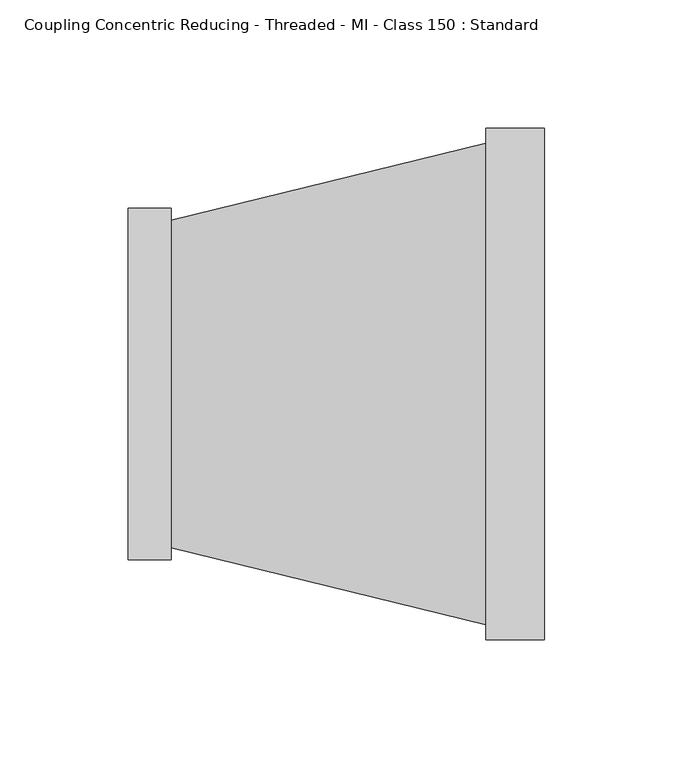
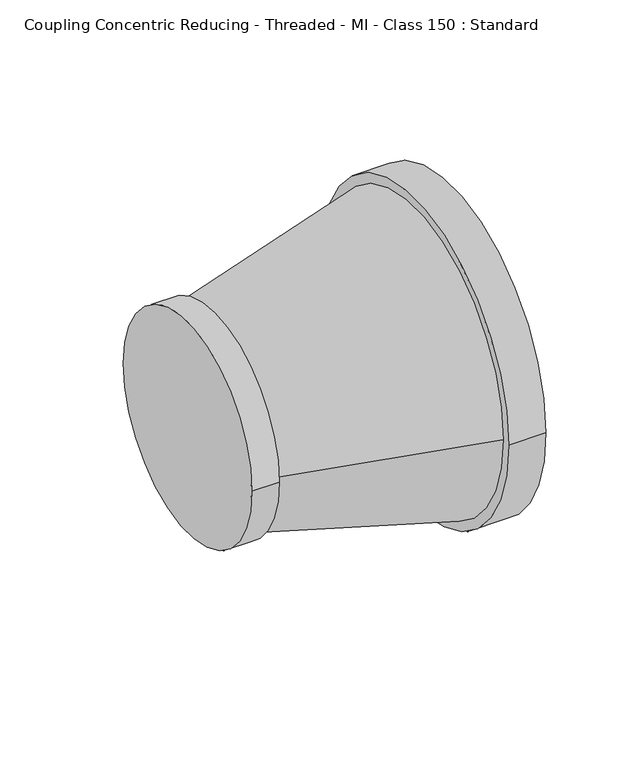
"""IFC4 building model written with IfcOpenShell, lengths in millimetres: pipe fitting geometry, Coupling Concentric Reducing - Threaded - MI - Class 150 : Standard."""

from ifc_helpers import new_model, si_unit, frame, origin, place, context, project, spatial, polyline, circle_curve, source, transform, mapped, element, save
from ifc_brep_helpers import plane_surface, cylinder_surface, revolved_surface, advanced_brep


def coupling_concentric_reducing_threaded_mi_class_150_standard_0bfa7107(model_context):
    return source(origin(), model_context, "Body", "AdvancedBrep", [
        advanced_brep(
        [(16.8, 63.93, 0.0), (139.9500313, 94.0157188, 0.0), (139.9500313, -94.0157187, 0.0), (16.8, -63.93, 0.0), (162.8020938, -99.9271719, 0.0), (162.8020938, 99.9271719, 0.0), (139.9500313, -99.9271719, 0.0), (139.9500313, 99.9271719, 0.0), (16.8, -68.6, 0.0), (16.8, 68.6, 0.0), (0.0, -68.6, 0.0), (0.0, 68.6, 0.0)],
        [
            (0, 1),
            (1, 2, circle_curve(frame((139.9500313, 0.0, 0.0), z_axis=(-1.0, 0.0, 0.0), x_axis=(0.0, -1.0, 0.0)), 94.0157188)),
            (2, 3),
            (3, 0, circle_curve(frame((16.8, 0.0, 0.0), z_axis=(1.0, 0.0, 0.0), x_axis=(0.0, -1.0, 0.0)), 63.93)),
            (0, 3, circle_curve(frame((16.8, 0.0, 0.0), z_axis=(1.0, 0.0, 0.0), x_axis=(0.0, 1.0, 0.0)), 63.93)),
            (2, 1, circle_curve(frame((139.9500313, 0.0, 0.0), z_axis=(-1.0, 0.0, 0.0), x_axis=(0.0, 1.0, 0.0)), 94.0157188)),
            (4, 5, circle_curve(frame((162.8020938, 0.0, 0.0), z_axis=(1.0, 0.0, 0.0), x_axis=(0.0, 1.0, 0.0)), 99.9271719)),
            (5, 4, circle_curve(frame((162.8020938, 0.0, 0.0), z_axis=(1.0, 0.0, 0.0), x_axis=(0.0, 1.0, 0.0)), 99.9271719)),
            (6, 7, circle_curve(frame((139.9500313, 0.0, 0.0), z_axis=(-1.0, 0.0, 0.0), x_axis=(0.0, 1.0, 0.0)), 99.9271719)),
            (7, 6, circle_curve(frame((139.9500313, 0.0, 0.0), z_axis=(-1.0, 0.0, 0.0), x_axis=(0.0, 1.0, 0.0)), 99.9271719)),
            (4, 6),
            (7, 5),
            (8, 9, circle_curve(frame((16.8, 0.0, 0.0), z_axis=(1.0, 0.0, 0.0), x_axis=(0.0, 1.0, 0.0)), 68.6)),
            (9, 8, circle_curve(frame((16.8, 0.0, 0.0), z_axis=(1.0, 0.0, 0.0), x_axis=(0.0, 1.0, 0.0)), 68.6)),
            (10, 11, circle_curve(frame((0.0, 0.0, 0.0), z_axis=(-1.0, 0.0, 0.0), x_axis=(0.0, 1.0, 0.0)), 68.6)),
            (11, 10, circle_curve(frame((0.0, 0.0, 0.0), z_axis=(-1.0, 0.0, 0.0), x_axis=(0.0, 1.0, 0.0)), 68.6)),
            (8, 10),
            (11, 9),
        ],
        [
            revolved_surface(polyline([(16.799999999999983, 63.93000002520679, 0.0), (139.9500313, 94.0157188, 0.0)]), (-244.8850062, 0.0, 0.0), (1.0, 0.0, 0.0)),
            plane_surface(frame((162.8020938, 99.9271719, 0.0), z_axis=(1.0, 0.0, 0.0), x_axis=(0.0, 0.0, 1.0))),
            plane_surface(frame((139.9500313, 99.9271719, 0.0), z_axis=(-1.0, 0.0, 0.0), x_axis=(0.0, 0.0, -1.0))),
            cylinder_surface(frame((139.9500313, 0.0, 0.0), z_axis=(1.0, 0.0, 0.0), x_axis=(0.0, 1.0, 0.0)), 99.9271719),
            plane_surface(frame((16.8, 68.6, 0.0), z_axis=(1.0, 0.0, 0.0), x_axis=(0.0, 0.0, 1.0))),
            plane_surface(frame((0.0, 68.6, 0.0), z_axis=(-1.0, 0.0, 0.0), x_axis=(0.0, 0.0, -1.0))),
            cylinder_surface(frame((0.0, 0.0, 0.0), z_axis=(1.0, 0.0, 0.0), x_axis=(0.0, 1.0, 0.0)), 68.6),
        ],
        [
            (0, [[1, 2, 3, 4]]),
            (0, [[-1, 5, -3, 6]]),
            (1, [[7, 8]]),
            (2, [[9, 10], [-2, -6]]),
            (3, [[-7, 11, -10, 12]]),
            (3, [[-8, -12, -9, -11]]),
            (4, [[13, 14], [-4, -5]]),
            (5, [[15, 16]]),
            (6, [[-13, 17, -16, 18]]),
            (6, [[-14, -18, -15, -17]]),
        ],
    ),
    ])


if __name__ == "__main__":
    model = new_model("IFC4")
    model_context = context("Model", 3, world=origin())
    ifc_project = project(units=[si_unit("LENGTHUNIT", "METRE", prefix="MILLI")], contexts=[model_context])
    site = spatial("IfcSite", under=ifc_project)
    building = spatial("IfcBuilding", under=site)
    placement = place(None, origin())
    coupling_concentric_reducing_threaded_mi_class_150_standard_shape = coupling_concentric_reducing_threaded_mi_class_150_standard_0bfa7107(model_context)
    element("IfcPipeFitting", 1, ObjectType="Coupling Concentric Reducing - Threaded - MI - Class 150 : Standard", at=placement, inside=building, context=model_context, shape_type="MappedRepresentation", body=[
        mapped(coupling_concentric_reducing_threaded_mi_class_150_standard_shape, transform((0.0, 0.0, 0.0), x_axis=(1.0, 0.0, 0.0), y_axis=(0.0, 1.0, 0.0), z_axis=(0.0, 0.0, 1.0))),
    ])
    save(model, "model.ifc")
